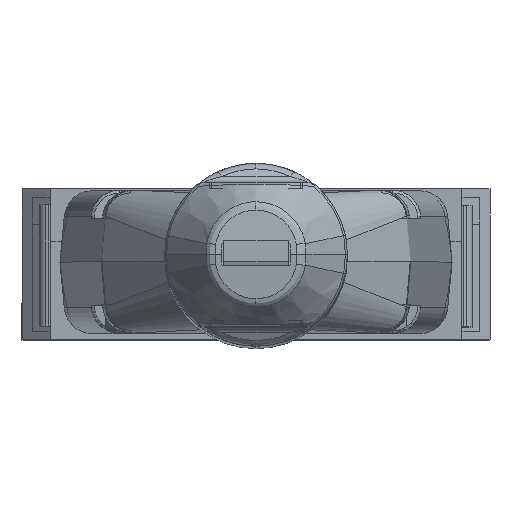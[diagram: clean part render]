
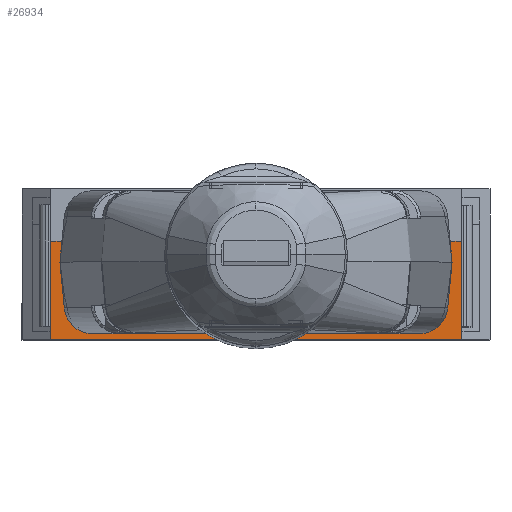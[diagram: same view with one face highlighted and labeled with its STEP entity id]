
A CAD part, top view. The second image highlights one B-rep face of the part: STEP entity #26934.
In plain terms, the highlighted planar face has unit normal (0, 0, 1).
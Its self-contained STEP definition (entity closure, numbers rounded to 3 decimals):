
#243 = VERTEX_POINT ( 'NONE', #16358 ) ;
#912 = CARTESIAN_POINT ( 'NONE',  ( -13.878, 0.54, -253.868 ) ) ;
#1456 = CARTESIAN_POINT ( 'NONE',  ( -13.467, -2.908, -253.868 ) ) ;
#2035 = ORIENTED_EDGE ( 'NONE', *, *, #3235, .F. ) ;
#2305 = EDGE_CURVE ( 'Defeatured_0_565+Defeatured_0_529+Defeatured_0_536+Defeatured_0_530', #18108, #10476, #12573, .T. ) ;
#2321 = VERTEX_POINT ( 'NONE', #23747 ) ;
#2532 = ORIENTED_EDGE ( 'NONE', *, *, #2305, .T. ) ;
#3235 = EDGE_CURVE ( 'Defeatured_0_560+Defeatured_0_565+Defeatured_0_561+Defeatured_0_181', #19876, #2321, #20397, .T. ) ;
#3392 = VECTOR ( 'NONE', #18544, 1000. ) ;
#3452 = EDGE_CURVE ( 'Defeatured_0_565+Defeatured_0_559+Defeatured_0_561+Defeatured_0_589', #13793, #11610, #18413, .T. ) ;
#3796 = CARTESIAN_POINT ( 'NONE',  ( -14.605, -5.486, -253.868 ) ) ;
#3892 =( BOUNDED_CURVE ( )  B_SPLINE_CURVE ( 3, ( #1456, #22190, #11817, #11554 ),
 .UNSPECIFIED., .F., .F. ) 
 B_SPLINE_CURVE_WITH_KNOTS ( ( 4, 4 ),
 ( 0.005, 1.334 ),
 .UNSPECIFIED. ) 
 CURVE ( )  GEOMETRIC_REPRESENTATION_ITEM ( )  RATIONAL_B_SPLINE_CURVE ( ( 1., 0.858, 0.858, 1. ) ) 
 REPRESENTATION_ITEM ( '' )  );
#4429 = CARTESIAN_POINT ( 'NONE',  ( 13.936, 0., -253.868 ) ) ;
#4754 = DIRECTION ( 'NONE',  ( 0., 1., 0. ) ) ;
#5064 = EDGE_CURVE ( 'Defeatured_0_565+Defeatured_0_530+Defeatured_0_529+Defeatured_0_560', #10476, #2321, #14734, .T. ) ;
#5413 = EDGE_CURVE ( 'Defeatured_0_565+Defeatured_0_561+Defeatured_0_560+Defeatured_0_559', #19876, #13793, #20945, .T. ) ;
#5487 = PLANE ( 'NONE',  #13019 ) ;
#5820 = EDGE_CURVE ( 'Defeatured_0_565+Defeatured_0_531+Defeatured_0_535+Defeatured_0_536', #19011, #9786, #11710, .T. ) ;
#6187 = EDGE_LOOP ( 'NONE', ( #11325, #6413, #16705, #24261, #19515, #16178, #2532, #17373, #2035, #21914 ) ) ;
#6413 = ORIENTED_EDGE ( 'NONE', *, *, #19836, .T. ) ;
#6563 = CARTESIAN_POINT ( 'NONE',  ( -13.759, 1.473, -253.868 ) ) ;
#6826 = CARTESIAN_POINT ( 'NONE',  ( -16.637, -2.908, -253.868 ) ) ;
#6905 = VECTOR ( 'NONE', #14704, 1000. ) ;
#7648 = CARTESIAN_POINT ( 'NONE',  ( -16.637, -5.486, -253.868 ) ) ;
#8144 = EDGE_CURVE ( 'Defeatured_0_565+Defeatured_0_534+Defeatured_0_589+Defeatured_0_535', #12866, #243, #26302, .T. ) ;
#8196 = CARTESIAN_POINT ( 'NONE',  ( 13.759, 1.473, -253.868 ) ) ;
#8766 = CARTESIAN_POINT ( 'NONE',  ( 14.605, 1.473, -253.868 ) ) ;
#9786 = VERTEX_POINT ( 'NONE', #22125 ) ;
#10476 = VERTEX_POINT ( 'NONE', #6563 ) ;
#10613 = CARTESIAN_POINT ( 'NONE',  ( 13.759, 1.473, -253.868 ) ) ;
#11325 = ORIENTED_EDGE ( 'NONE', *, *, #3452, .T. ) ;
#11554 = CARTESIAN_POINT ( 'NONE',  ( -13.936, 0., -253.868 ) ) ;
#11610 = VERTEX_POINT ( 'NONE', #8766 ) ;
#11710 = LINE ( 'NONE', #6826, #16305 ) ;
#11817 = CARTESIAN_POINT ( 'NONE',  ( -13.746, -1.778, -253.868 ) ) ;
#12392 = CARTESIAN_POINT ( 'NONE',  ( 13.746, -1.778, -253.868 ) ) ;
#12573 =( BOUNDED_CURVE ( )  B_SPLINE_CURVE ( 3, ( #21572, #912, #25828, #17407 ),
 .UNSPECIFIED., .F., .F. ) 
 B_SPLINE_CURVE_WITH_KNOTS ( ( 4, 4 ),
 ( 1.807, 2.24 ),
 .UNSPECIFIED. ) 
 CURVE ( )  GEOMETRIC_REPRESENTATION_ITEM ( )  RATIONAL_B_SPLINE_CURVE ( ( 1., 0.984, 0.984, 1. ) ) 
 REPRESENTATION_ITEM ( '' )  );
#12850 = VECTOR ( 'NONE', #4754, 1000. ) ;
#12866 = VERTEX_POINT ( 'NONE', #8196 ) ;
#13019 = AXIS2_PLACEMENT_3D ( 'NONE', #24491, #16136, #18067 ) ;
#13667 = LINE ( 'NONE', #19869, #16641 ) ;
#13793 = VERTEX_POINT ( 'NONE', #19342 ) ;
#14608 = CARTESIAN_POINT ( 'NONE',  ( 13.467, -2.908, -253.868 ) ) ;
#14701 = VECTOR ( 'NONE', #24466, 1000. ) ;
#14704 = DIRECTION ( 'NONE',  ( -1., 0., 0. ) ) ;
#14734 = LINE ( 'NONE', #18540, #6905 ) ;
#15291 = EDGE_CURVE ( 'Defeatured_0_565+Defeatured_0_535+Defeatured_0_534+Defeatured_0_531', #243, #19011, #20455, .T. ) ;
#15706 = FACE_OUTER_BOUND ( 'NONE', #6187, .T. ) ;
#16136 = DIRECTION ( 'NONE',  ( 0., 0., -1. ) ) ;
#16178 = ORIENTED_EDGE ( 'NONE', *, *, #16939, .T. ) ;
#16305 = VECTOR ( 'NONE', #25888, 1000. ) ;
#16358 = CARTESIAN_POINT ( 'NONE',  ( 13.936, 0., -253.868 ) ) ;
#16418 = CARTESIAN_POINT ( 'NONE',  ( 13.564, -2.908, -253.868 ) ) ;
#16641 = VECTOR ( 'NONE', #24169, 1000. ) ;
#16705 = ORIENTED_EDGE ( 'NONE', *, *, #8144, .T. ) ;
#16939 = EDGE_CURVE ( 'Defeatured_0_565+Defeatured_0_536+Defeatured_0_531+Defeatured_0_529', #9786, #18108, #3892, .T. ) ;
#17373 = ORIENTED_EDGE ( 'NONE', *, *, #5064, .T. ) ;
#17407 = CARTESIAN_POINT ( 'NONE',  ( -13.759, 1.473, -253.868 ) ) ;
#17416 = CARTESIAN_POINT ( 'NONE',  ( 14.605, -5.486, -253.868 ) ) ;
#18067 = DIRECTION ( 'NONE',  ( -1., 0., 0. ) ) ;
#18108 = VERTEX_POINT ( 'NONE', #22839 ) ;
#18413 = LINE ( 'NONE', #17416, #12850 ) ;
#18540 = CARTESIAN_POINT ( 'NONE',  ( -8.255, 1.473, -253.868 ) ) ;
#18544 = DIRECTION ( 'NONE',  ( 0., 1., 0. ) ) ;
#19011 = VERTEX_POINT ( 'NONE', #19360 ) ;
#19342 = CARTESIAN_POINT ( 'NONE',  ( 14.605, -5.486, -253.868 ) ) ;
#19360 = CARTESIAN_POINT ( 'NONE',  ( 13.467, -2.908, -253.868 ) ) ;
#19515 = ORIENTED_EDGE ( 'NONE', *, *, #5820, .T. ) ;
#19836 = EDGE_CURVE ( 'Defeatured_0_565+Defeatured_0_589+Defeatured_0_559+Defeatured_0_534', #11610, #12866, #13667, .T. ) ;
#19869 = CARTESIAN_POINT ( 'NONE',  ( -16.637, 1.473, -253.868 ) ) ;
#19876 = VERTEX_POINT ( 'NONE', #3796 ) ;
#20397 = LINE ( 'NONE', #20864, #3392 ) ;
#20455 =( BOUNDED_CURVE ( )  B_SPLINE_CURVE ( 3, ( #22943, #12392, #16418, #14608 ),
 .UNSPECIFIED., .F., .F. ) 
 B_SPLINE_CURVE_WITH_KNOTS ( ( 4, 4 ),
 ( 1.807, 3.137 ),
 .UNSPECIFIED. ) 
 CURVE ( )  GEOMETRIC_REPRESENTATION_ITEM ( )  RATIONAL_B_SPLINE_CURVE ( ( 1., 0.858, 0.858, 1. ) ) 
 REPRESENTATION_ITEM ( '' )  );
#20864 = CARTESIAN_POINT ( 'NONE',  ( -14.605, -5.486, -253.868 ) ) ;
#20945 = LINE ( 'NONE', #7648, #14701 ) ;
#20966 = CARTESIAN_POINT ( 'NONE',  ( 13.878, 0.54, -253.868 ) ) ;
#21572 = CARTESIAN_POINT ( 'NONE',  ( -13.936, 0., -253.868 ) ) ;
#21914 = ORIENTED_EDGE ( 'NONE', *, *, #5413, .T. ) ;
#22125 = CARTESIAN_POINT ( 'NONE',  ( -13.467, -2.908, -253.868 ) ) ;
#22190 = CARTESIAN_POINT ( 'NONE',  ( -13.564, -2.908, -253.868 ) ) ;
#22839 = CARTESIAN_POINT ( 'NONE',  ( -13.936, 0., -253.868 ) ) ;
#22943 = CARTESIAN_POINT ( 'NONE',  ( 13.936, 0., -253.868 ) ) ;
#23747 = CARTESIAN_POINT ( 'NONE',  ( -14.605, 1.473, -253.868 ) ) ;
#24169 = DIRECTION ( 'NONE',  ( -1., 0., 0. ) ) ;
#24261 = ORIENTED_EDGE ( 'NONE', *, *, #15291, .T. ) ;
#24466 = DIRECTION ( 'NONE',  ( 1., 0., 0. ) ) ;
#24491 = CARTESIAN_POINT ( 'NONE',  ( -16.637, 2.743, -253.868 ) ) ;
#25255 = CARTESIAN_POINT ( 'NONE',  ( 13.819, 1.039, -253.868 ) ) ;
#25828 = CARTESIAN_POINT ( 'NONE',  ( -13.819, 1.039, -253.868 ) ) ;
#25888 = DIRECTION ( 'NONE',  ( -1., 0., 0. ) ) ;
#26302 =( BOUNDED_CURVE ( )  B_SPLINE_CURVE ( 3, ( #10613, #25255, #20966, #4429 ),
 .UNSPECIFIED., .F., .F. ) 
 B_SPLINE_CURVE_WITH_KNOTS ( ( 4, 4 ),
 ( 0.901, 1.334 ),
 .UNSPECIFIED. ) 
 CURVE ( )  GEOMETRIC_REPRESENTATION_ITEM ( )  RATIONAL_B_SPLINE_CURVE ( ( 1., 0.984, 0.984, 1. ) ) 
 REPRESENTATION_ITEM ( '' )  );
#26934 = ADVANCED_FACE ( 'Defeatured_0_565', ( #15706 ), #5487, .F. ) ;
